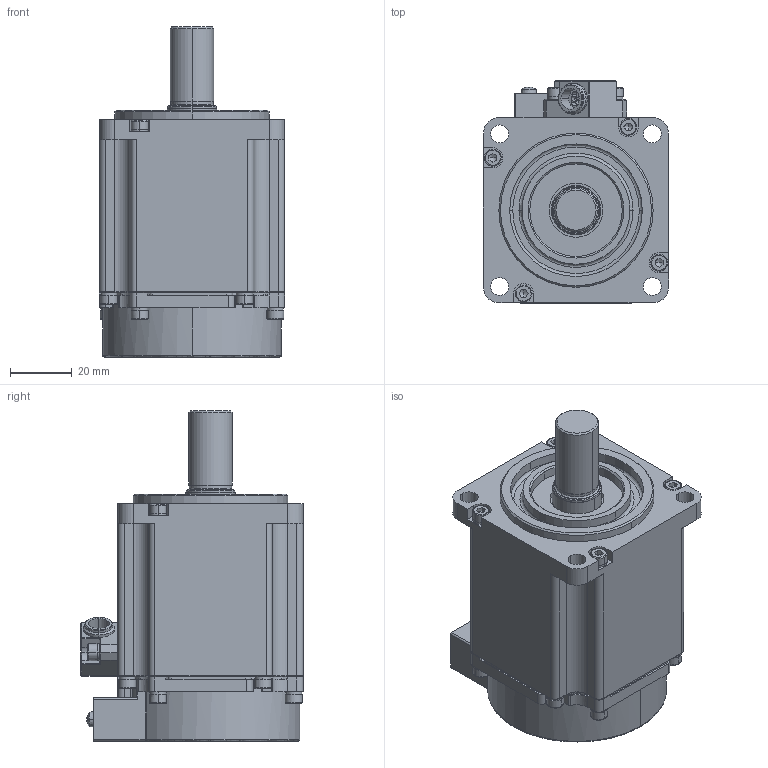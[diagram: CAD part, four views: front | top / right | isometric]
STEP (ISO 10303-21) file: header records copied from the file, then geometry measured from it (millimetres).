
FILE_DESCRIPTION (( 'STEP AP214' ), '1' );
FILE_NAME ('SME-H020.STEP', '2020-05-18T08:12:22', ( '' ), ( '' ), 'SwSTEP 2.0', 'SolidWorks 2016', '' );
FILE_SCHEMA (( 'AUTOMOTIVE_DESIGN' ));
Length unit declared in the file: millimetre
Products named in the file (1): SME-H020
Bounding box: 60 x 72 x 107 mm (x, y, z)
Surface area: 44638.5 mm2 (no closed solid volume)
Topology: 0 solids, 93 shells, 1152 faces, 2967 edges, 1969 vertices
Faces by surface type: plane 437, cylinder 425, cone 175, bspline 115
Entity records: 43242 total; most frequent: CARTESIAN_POINT 14805, DIRECTION 5761, ORIENTED_EDGE 5630, EDGE_CURVE 2917, AXIS2_PLACEMENT_3D 2236, VERTEX_POINT 1969, VECTOR 1289, LINE 1289
